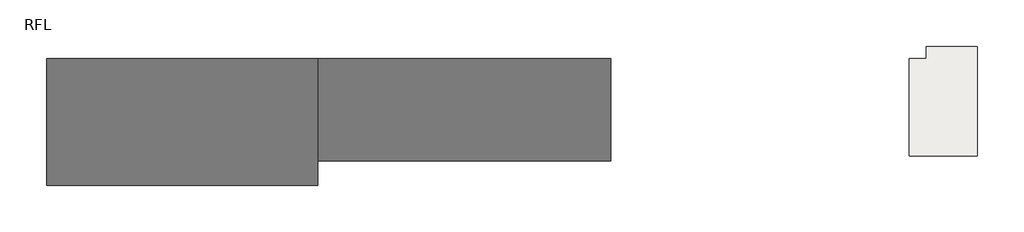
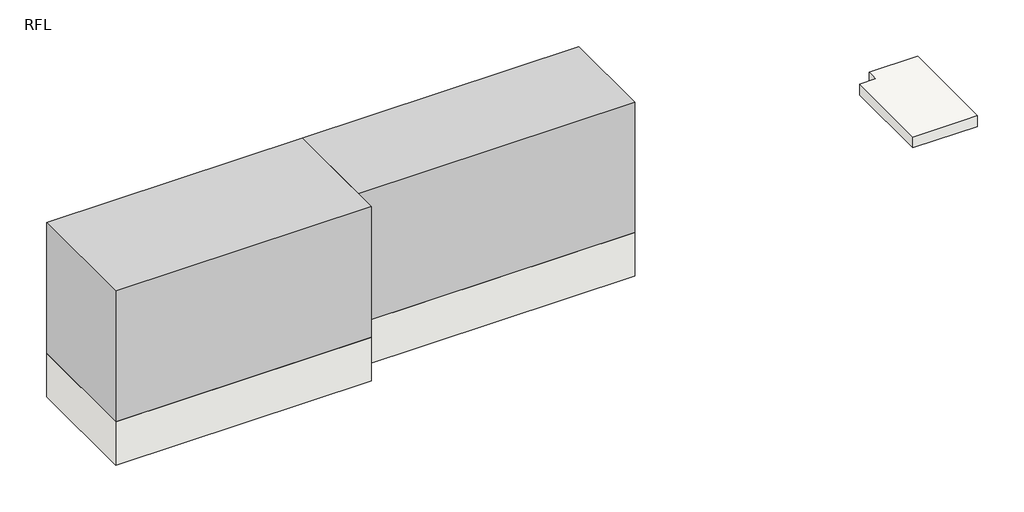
# One storey: 3 slabs, 2 proxies.
"""IFC4 building model written with IfcOpenShell, lengths in millimetres."""

from ifc_helpers import new_model, si_unit, frame, origin, place, context, project, spatial, polyline, outline, extrude, element, save

model = new_model("IFC4")

# Units and contexts
model_context = context("Model", 3, world=origin())
ifc_project = project(units=[si_unit("LENGTHUNIT", "METRE", prefix="MILLI")], contexts=[model_context])

# Site, building, storey
site = spatial("IfcSite", under=ifc_project)
building = spatial("IfcBuilding", under=site)
storey = spatial("IfcBuildingStorey", under=building, Name="RFL", Elevation=32600.0)

# Proxies
placement = place(None, origin())
element("IfcBuildingElementProxy", 1, Name="i_コア3 : i_コア", ObjectType="i_コア3 : i_コア", at=placement, inside=storey, context=model_context, shape_type="SweptSolid", body=[
    extrude(outline(polyline([(-15395.9784025, 15749.6868987), (-15395.9784025, 13149.6868987), (-20945.9784025, 13149.6868987), (-20945.9784025, 15749.6868987), (-15395.9784025, 15749.6868987)])), frame((0.0, 0.0, 32600.0), z_axis=(0.0, 0.0, 1.0), x_axis=(1.0, 0.0, 0.0)), (0.0, 0.0, 1.0), 3000.0),
])
element("IfcBuildingElementProxy", 2, Name="i_コア4 : i_コア", ObjectType="i_コア4 : i_コア", at=placement, inside=storey, context=model_context, shape_type="SweptSolid", body=[
    extrude(outline(polyline([(-9395.9784025, 15749.6868987), (-9395.9784025, 13649.6868987), (-15395.9784025, 13649.6868987), (-15395.9784025, 15749.6868987), (-9395.9784025, 15749.6868987)])), frame((0.0, 0.0, 32600.0), z_axis=(0.0, 0.0, 1.0), x_axis=(1.0, 0.0, 0.0)), (0.0, 0.0, 1.0), 3000.0),
])

# Slabs
element("IfcSlab", 3, ObjectType="企画1000", at=placement, inside=storey, context=model_context, shape_type="SweptSolid", body=[
    extrude(outline(polyline([(-15395.9784025, 15749.6868987), (-15395.9784025, 13149.6868987), (-20945.9784025, 13149.6868987), (-20945.9784025, 15749.6868987), (-15395.9784025, 15749.6868987)])), frame((0.0, 0.0, 31600.0), z_axis=(0.0, 0.0, 1.0), x_axis=(1.0, 0.0, 0.0)), (0.0, 0.0, 1.0), 1000.0),
])
element("IfcSlab", 4, ObjectType="企画1000", at=placement, inside=storey, context=model_context, shape_type="SweptSolid", body=[
    extrude(outline(polyline([(-9395.9784025, 15749.6868987), (-9395.9784025, 13649.6868987), (-15395.9784025, 13649.6868987), (-15395.9784025, 15749.6868987), (-9395.9784025, 15749.6868987)])), frame((0.0, 0.0, 31600.0), z_axis=(0.0, 0.0, 1.0), x_axis=(1.0, 0.0, 0.0)), (0.0, 0.0, 1.0), 1000.0),
])
element("IfcSlab", 5, ObjectType="RC250", at=placement, inside=storey, context=model_context, shape_type="SweptSolid", body=[
    extrude(outline(polyline([(-2945.9784025, 15999.6868987), (-1895.9784025, 15999.6868987), (-1895.9784025, 13749.6868987), (-3295.9784025, 13749.6868987), (-3295.9784025, 15749.6868987), (-2945.9784025, 15749.6868987), (-2945.9784025, 15999.6868987)])), frame((0.0, 0.0, 32350.0), z_axis=(0.0, 0.0, 1.0), x_axis=(1.0, 0.0, 0.0)), (0.0, 0.0, 1.0), 250.0),
])

save(model, "model.ifc")
